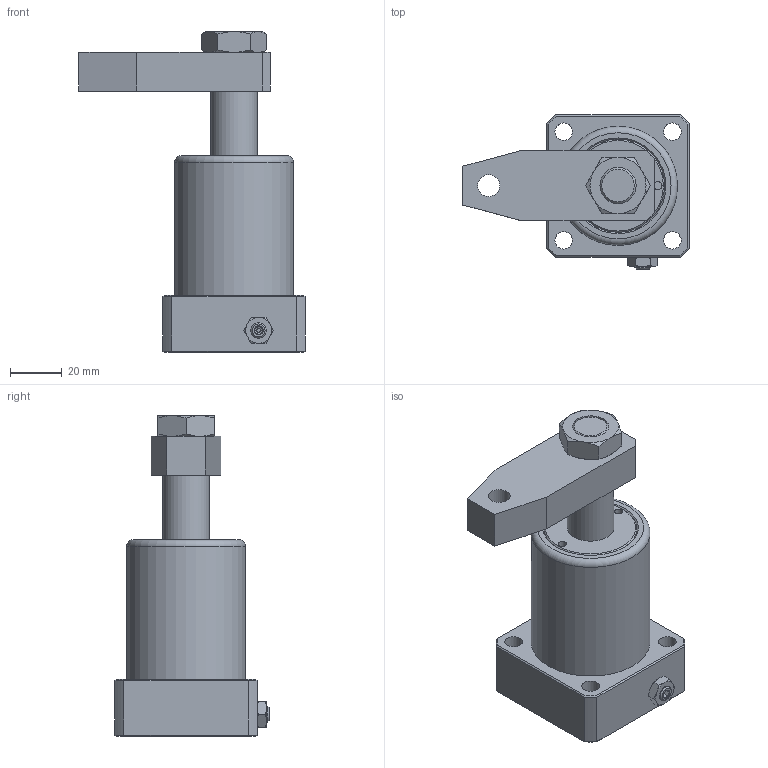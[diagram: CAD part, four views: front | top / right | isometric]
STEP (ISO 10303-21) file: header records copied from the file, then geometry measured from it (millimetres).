
FILE_DESCRIPTION(/* description */ ('Unknown'),/* implementation_level */ '2;1');
FILE_NAME(/* name */ 'HSC-MF25S-A',/* time_stamp */ '2019-05-27T16:09:31+08:00',/* author */ ('Unknown'),/* organization */ ('Unknown'),/* preprocessor_version */ 'ST-DEVELOPER v16.7',/* originating_system */ 'DEX',/* authorisation */ $);
FILE_SCHEMA (('AUTOMOTIVE_DESIGN {1 0 10303 214 3 1 1}'));
Length unit declared in the file: millimetre
Products named in the file (4): HSC-MF25S-A; HSC-MF25S-CYLINDER; HSC-2502-S-AXLE CENTRE; HSC-25S-A
Assembly tree (3 placements, depth 2):
  HSC-MF25S-A
    HSC-MF25S-CYLINDER
    HSC-2502-S-AXLE CENTRE
    HSC-25S-A
Bounding box: 87.5 x 59.6 x 124 mm (x, y, z)
Volume: 177379 mm3; surface area: 38906 mm2
Topology: 3 solids, 3 shells, 131 faces, 281 edges, 174 vertices
Faces by surface type: plane 57, cone 34, cylinder 24, bspline 12, torus 4
Full cylindrical faces by diameter (mm): 3.2 x2, 5 x2, 6 x1, 6.8 x4, 8.5 x1, 10 x2, 14 x2, 15 x1, 18 x1, 18.001 x1, 24.601 x1, 25 x1, 46 x1
Entity records: 3964 total; most frequent: CARTESIAN_POINT 967, ORIENTED_EDGE 494, DIRECTION 494, EDGE_CURVE 247, AXIS2_PLACEMENT_3D 213, EDGE_LOOP 192, FACE_BOUND 192, VERTEX_POINT 171
